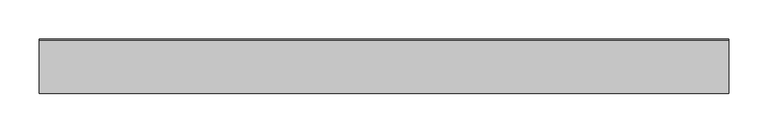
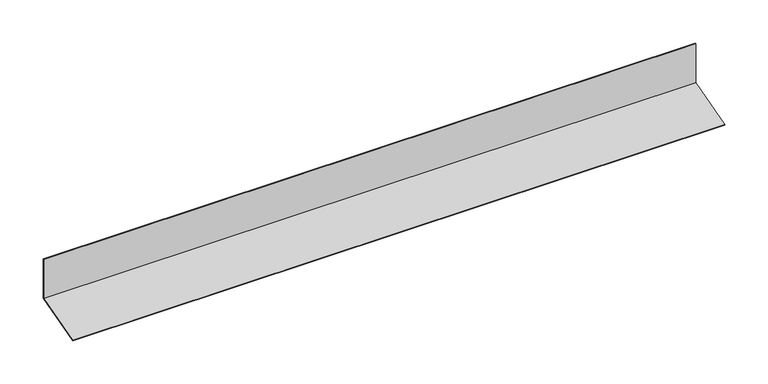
"""IFC4 building model written with IfcOpenShell, lengths in millimetres: proxy geometry, Translucent Sheet Stopend Flashing1 : Translucent Sheet Stopend Flashing."""

from ifc_helpers import new_model, si_unit, frame, origin, place, context, project, spatial, polyline, outline, extrude, source, transform, mapped, element, save


def generic_models_fef78faf(model_context):
    return source(origin(), model_context, "Body", "SweptSolid", [
        extrude(outline(polyline([(-20907.0639369, 1751.9323942), (-20907.0639369, 1807.5776425), (-20906.0639369, 1807.5776425), (-20906.0639369, 1751.1650672), (-20974.3192734, 1732.8761049), (-20974.5780924, 1733.8420307), (-20907.0639369, 1751.9323942)])), frame((32853.3020124, 0.0, 0.0), z_axis=(1.0, 0.0, 0.0), x_axis=(0.0, 1.0, 0.0)), (0.0, 0.0, 1.0), 872.5869809),
    ])


if __name__ == "__main__":
    model = new_model("IFC4")
    model_context = context("Model", 3, world=origin())
    ifc_project = project(units=[si_unit("LENGTHUNIT", "METRE", prefix="MILLI")], contexts=[model_context])
    site = spatial("IfcSite", under=ifc_project)
    building = spatial("IfcBuilding", under=site)
    placement = place(None, origin())
    generic_models_shape = generic_models_fef78faf(model_context)
    element("IfcBuildingElementProxy", 1, Name="Translucent Sheet Stopend Flashing1 : Translucent Sheet Stopend Flashing", ObjectType="Translucent Sheet Stopend Flashing1 : Translucent Sheet Stopend Flashing", at=placement, inside=building, context=model_context, shape_type="MappedRepresentation", body=[
        mapped(generic_models_shape, transform((0.0, 0.0, 0.0), x_axis=(1.0, 0.0, 0.0), y_axis=(0.0, 1.0, 0.0), z_axis=(0.0, 0.0, 1.0))),
    ])
    save(model, "model.ifc")
